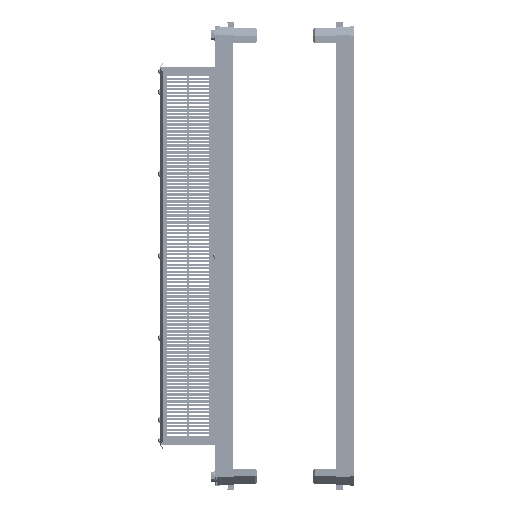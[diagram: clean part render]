
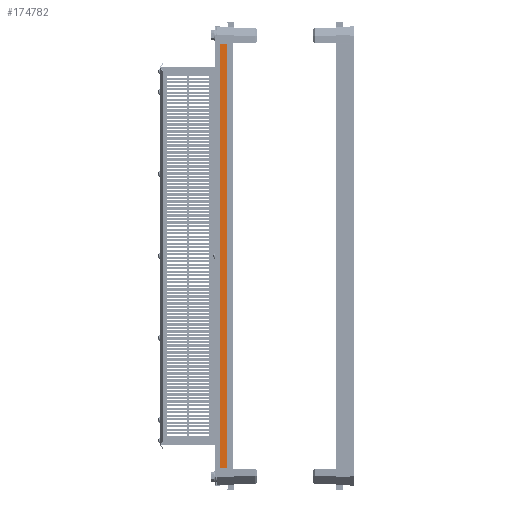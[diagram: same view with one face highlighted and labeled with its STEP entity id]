
A CAD part, left-side view. The second image highlights one B-rep face of the part: STEP entity #174782.
In plain terms, the highlighted planar face has unit normal (-1, 0, 0).
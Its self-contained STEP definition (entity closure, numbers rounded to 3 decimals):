
#16944 = ORIENTED_EDGE ( 'NONE', *, *, #94010, .F. ) ;
#18417 = VERTEX_POINT ( 'NONE', #23532 ) ;
#23532 = CARTESIAN_POINT ( 'NONE',  ( -989.5, -141.8, -954. ) ) ;
#28163 = ORIENTED_EDGE ( 'NONE', *, *, #172671, .F. ) ;
#37566 = LINE ( 'NONE', #261116, #126879 ) ;
#53019 = CARTESIAN_POINT ( 'NONE',  ( -989.5, -119.3, -46. ) ) ;
#54651 = PLANE ( 'NONE',  #92487 ) ;
#59137 = VECTOR ( 'NONE', #347603, 1000. ) ;
#67818 = ORIENTED_EDGE ( 'NONE', *, *, #126734, .F. ) ;
#92487 = AXIS2_PLACEMENT_3D ( 'NONE', #352205, #330524, #294555 ) ;
#92509 = VECTOR ( 'NONE', #181797, 1000. ) ;
#94010 = EDGE_CURVE ( 'NONE', #181738, #152183, #344090, .T. ) ;
#122340 = LINE ( 'NONE', #124121, #92509 ) ;
#124121 = CARTESIAN_POINT ( 'NONE',  ( -989.5, -141.8, -954. ) ) ;
#126734 = EDGE_CURVE ( 'NONE', #18417, #181738, #37566, .T. ) ;
#126879 = VECTOR ( 'NONE', #228757, 1000. ) ;
#132223 = CARTESIAN_POINT ( 'NONE',  ( -989.5, -140.5, -46. ) ) ;
#152183 = VERTEX_POINT ( 'NONE', #53019 ) ;
#172671 = EDGE_CURVE ( 'NONE', #311287, #18417, #122340, .T. ) ;
#174782 = ADVANCED_FACE ( 'NONE', ( #191684 ), #54651, .F. ) ;
#181738 = VERTEX_POINT ( 'NONE', #274051 ) ;
#181797 = DIRECTION ( 'NONE',  ( 0., 0., -1. ) ) ;
#191684 = FACE_OUTER_BOUND ( 'NONE', #194865, .T. ) ;
#194865 = EDGE_LOOP ( 'NONE', ( #356458, #16944, #67818, #28163 ) ) ;
#213433 = LINE ( 'NONE', #132223, #241481 ) ;
#216713 = CARTESIAN_POINT ( 'NONE',  ( -989.5, -141.8, -46. ) ) ;
#228757 = DIRECTION ( 'NONE',  ( 0., 1., 0. ) ) ;
#241481 = VECTOR ( 'NONE', #323425, 1000. ) ;
#252370 = EDGE_CURVE ( 'NONE', #311287, #152183, #213433, .T. ) ;
#261116 = CARTESIAN_POINT ( 'NONE',  ( -989.5, -140.5, -954. ) ) ;
#274051 = CARTESIAN_POINT ( 'NONE',  ( -989.5, -119.3, -954. ) ) ;
#294555 = DIRECTION ( 'NONE',  ( 0., 0., -1. ) ) ;
#311287 = VERTEX_POINT ( 'NONE', #216713 ) ;
#320584 = CARTESIAN_POINT ( 'NONE',  ( -989.5, -119.3, -954. ) ) ;
#323425 = DIRECTION ( 'NONE',  ( 0., 1., 0. ) ) ;
#330524 = DIRECTION ( 'NONE',  ( 1., 0., 0. ) ) ;
#344090 = LINE ( 'NONE', #320584, #59137 ) ;
#347603 = DIRECTION ( 'NONE',  ( 0., 0., 1. ) ) ;
#352205 = CARTESIAN_POINT ( 'NONE',  ( -989.5, -140.5, -954. ) ) ;
#356458 = ORIENTED_EDGE ( 'NONE', *, *, #252370, .T. ) ;
